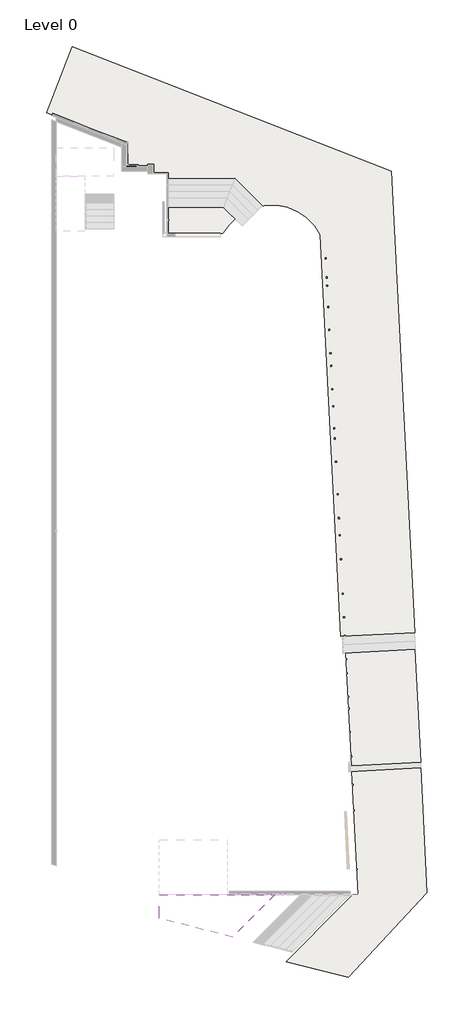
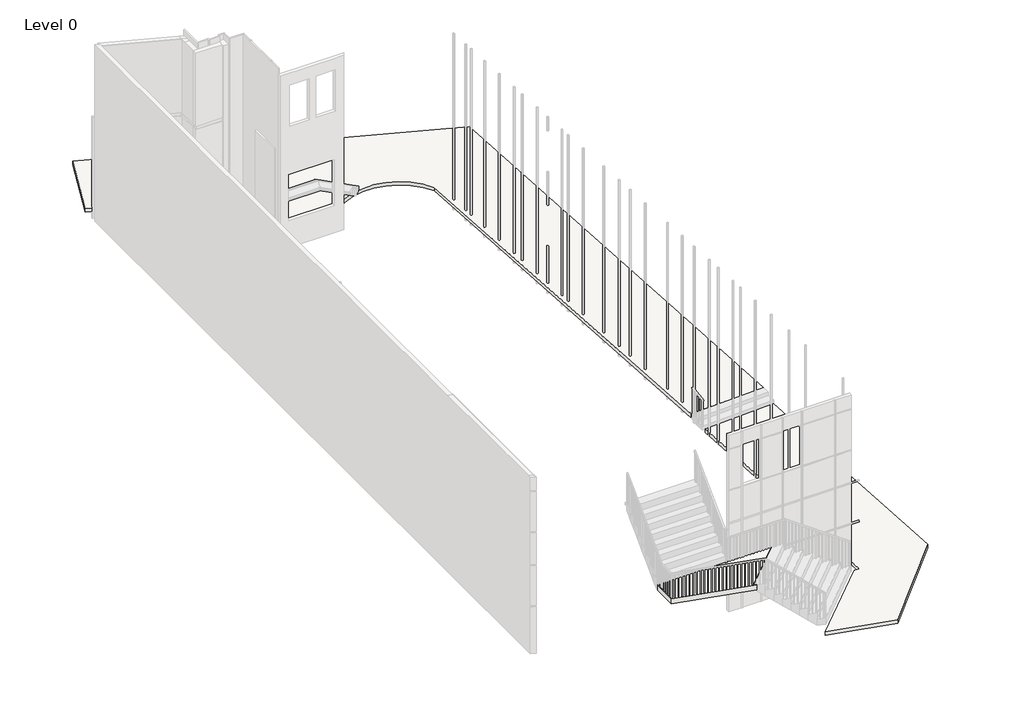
# One storey, part 3 of 6: 4 slabs.
"""IFC4 building model written with IfcOpenShell, lengths in millimetres."""

from ifc_helpers import new_model, si_unit, point, frame, frame_2d, origin, origin_with_axes, place, context, project, spatial, polyline, circle_curve, trimmed, segment, composite_curve, outline, extrude, faceted_brep, element, save

model = new_model("IFC4")

# Units and contexts
model_context = context("Model", 3, world=origin())
ifc_project = project(units=[si_unit("LENGTHUNIT", "METRE", prefix="MILLI")], contexts=[model_context])

# Site, building, storey
site = spatial("IfcSite", under=ifc_project)
building = spatial("IfcBuilding", under=site)
storey = spatial("IfcBuildingStorey", under=building, Name="Level 0", Elevation=0.0)

# Slabs
placement = place(None, origin())
element("IfcSlab", 1, ObjectType="220mm Thickness", at=placement, inside=storey, context=model_context, shape_type="Brep", body=[
    faceted_brep([(7239.6961806, -18095.5937279, 2250.0), (4339.6961928, -18095.5937279, 2250.0), (4339.6961928, -19114.2788279, 2250.0), (7479.2857649, -19907.879261, 2250.0), (7403.3860105, -19831.9795067, 2250.0), (9129.054895, -18106.3106221, 2250.0), (4339.6961928, -18095.5937279, 2030.0), (4339.6961928, -19114.2788279, 2030.0), (7239.6961806, -18095.5937279, 2030.0), (9269.6786, -18107.1082734, 2030.0), (7474.0966886, -19902.6901848, 2030.0), (7479.2857649, -19907.879261, 2030.0), (9129.054895, -18106.3106221, 2140.0), (9269.6786, -18107.1082734, 2140.0), (7403.3860105, -19831.9795067, 2140.0), (7474.0966886, -19902.6901848, 2140.0)], [[[0, 1, 2, 3, 4, 5]], [[2, 1, 6, 7]], [[6, 8, 9, 10, 11, 7]], [[8, 0, 5, 12, 13, 9]], [[1, 0, 8, 6]], [[2, 7, 11, 3]], [[14, 15, 13, 12]], [[4, 14, 12, 5]], [[14, 4, 3, 11, 10, 15]], [[13, 15, 10, 9]]]),
])
element("IfcSlab", 2, ObjectType="Generic 150mm", at=placement, inside=storey, context=model_context, shape_type="Brep", body=[
    faceted_brep([(15773.8657257, -18013.2445939, -150.0), (12414.1494194, -21634.5282282, -150.0), (10091.2346145, -21047.3603347, -150.0), (9758.9892813, -20963.378007, -150.0), (12183.9880295, -18538.3792587, -150.0), (12612.7464436, -18109.6208447, -150.0), (12621.5631234, -18100.8041648, -150.0), (12832.9170064, -18100.8041648, -150.0), (12564.841364, -12835.8255904, -150.0), (15502.6320625, -12686.2428109, -150.0), (15773.8657257, -18013.2445939, 0.0), (15502.6320625, -12686.2428109, 0.0), (12564.841364, -12835.8255904, 0.0), (12832.9170064, -18100.8041648, 0.0), (12621.5631234, -18100.8041648, 0.0), (12612.7464436, -18109.6208447, 0.0), (12183.9880295, -18538.3792587, 0.0), (9758.9892813, -20963.378007, 0.0), (12414.1494194, -21634.5282282, 0.0)], [[[0, 1, 2, 3, 4, 5, 6, 7, 8, 9]], [[10, 11, 12, 13, 14, 15, 16, 17, 18]], [[8, 7, 13, 12]], [[9, 8, 12, 11]], [[0, 9, 11, 10]], [[1, 0, 10, 18]], [[3, 2, 1, 18, 17]], [[6, 5, 4, 3, 17, 16, 15, 14]], [[7, 6, 14, 13]]]),
])
element("IfcSlab", 3, ObjectType="Generic 150mm", at=placement, inside=storey, context=model_context, shape_type="SweptSolid", body=[
    extrude(outline(polyline([(12552.3525403, -12590.5463536), (12307.3761305, -7779.2343759), (15254.1632662, -7629.1935271), (15499.1396761, -12440.5055048), (12552.3525403, -12590.5463536)])), origin_with_axes(), (0.0, 0.0, 1.0), 150.0),
])
element("IfcSlab", 4, ObjectType="Generic 150mm", at=placement, inside=storey, context=model_context, shape_type="SweptSolid", body=[
    extrude(outline(composite_curve([segment(polyline([(15250.1545912, -6914.300122), (12101.27977, -7074.6306207), (11227.481534, 10086.6785892)]), True, "CONTINUOUS"), segment(trimmed(circle_curve(frame_2d((9131.2105116, 8980.9897456)), 2370.0000039), [point((11227.481534, 10086.6785892))], [point((7059.3339263, 10131.7405588))], True, "CARTESIAN"), True, "CONTINUOUS"), segment(polyline([(7059.3339263, 10131.7405588), (4670.0008952, 10131.7405588), (4670.0008952, 12681.9409286), (4060.156273, 12681.9409286), (4060.156273, 12981.9409286), (2940.0008706, 12981.9409286), (2940.0008706, 13950.8343658), (-469.2380981, 15283.1201463), (636.9885201, 18113.887351), (14246.5990003, 12795.4304496), (15250.1545912, -6914.300122)]), True, "CONTINUOUS")], self_intersect=False)), frame((0.0, 0.0, 300.0), z_axis=(0.0, 0.0, 1.0), x_axis=(1.0, 0.0, 0.0)), (0.0, 0.0, 1.0), 150.0),
])

save(model, "model.ifc")
